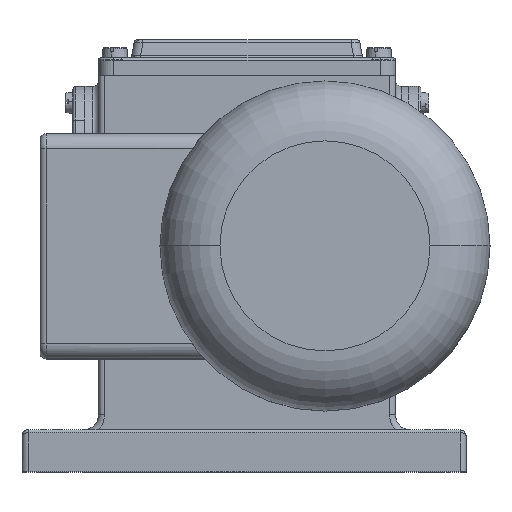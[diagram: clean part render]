
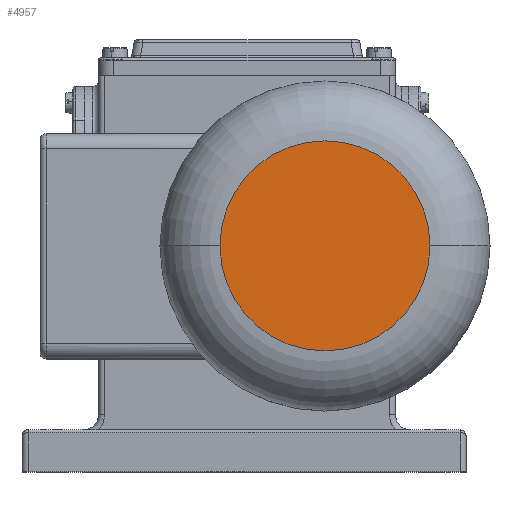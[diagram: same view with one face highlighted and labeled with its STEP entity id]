
A CAD part, top view. The second image highlights one B-rep face of the part: STEP entity #4957.
In plain terms, the highlighted planar face has unit normal (0, 0, 1) as drawn and (-1, 0, 0) by its records, which use the part's own axes.
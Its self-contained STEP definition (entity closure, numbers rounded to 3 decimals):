
#902 = CARTESIAN_POINT ( 'NONE',  ( 0., 0., 35. ) ) ;
#1356 = CARTESIAN_POINT ( 'NONE',  ( 0., 0., -35. ) ) ;
#2678 = VERTEX_POINT ( 'NONE', #902 ) ;
#2788 = EDGE_CURVE ( 'NONE', #2678, #12945, #15519, .T. ) ;
#3285 = PLANE ( 'NONE',  #7546 ) ;
#3301 = CARTESIAN_POINT ( 'NONE',  ( 0., 0., 0. ) ) ;
#3404 = EDGE_CURVE ( 'NONE', #12945, #2678, #16283, .T. ) ;
#4309 = ORIENTED_EDGE ( 'NONE', *, *, #2788, .T. ) ;
#4515 = DIRECTION ( 'NONE',  ( 0., 0., -1. ) ) ;
#4957 = ADVANCED_FACE ( 'NONE', ( #12214 ), #3285, .F. ) ;
#5534 = CARTESIAN_POINT ( 'NONE',  ( 0., 0., 0. ) ) ;
#6120 = AXIS2_PLACEMENT_3D ( 'NONE', #9856, #14087, #15144 ) ;
#6595 = AXIS2_PLACEMENT_3D ( 'NONE', #3301, #16381, #4515 ) ;
#6683 = ORIENTED_EDGE ( 'NONE', *, *, #3404, .T. ) ;
#7546 = AXIS2_PLACEMENT_3D ( 'NONE', #5534, #10822, #13519 ) ;
#9856 = CARTESIAN_POINT ( 'NONE',  ( 0., 0., 0. ) ) ;
#10822 = DIRECTION ( 'NONE',  ( 1., 0., 0. ) ) ;
#12214 = FACE_OUTER_BOUND ( 'NONE', #13015, .T. ) ;
#12945 = VERTEX_POINT ( 'NONE', #1356 ) ;
#13015 = EDGE_LOOP ( 'NONE', ( #6683, #4309 ) ) ;
#13519 = DIRECTION ( 'NONE',  ( 0., 0., -1. ) ) ;
#14087 = DIRECTION ( 'NONE',  ( -1., 0., 0. ) ) ;
#15144 = DIRECTION ( 'NONE',  ( 0., 0., -1. ) ) ;
#15519 = CIRCLE ( 'NONE', #6120, 35. ) ;
#16283 = CIRCLE ( 'NONE', #6595, 35. ) ;
#16381 = DIRECTION ( 'NONE',  ( -1., 0., 0. ) ) ;
